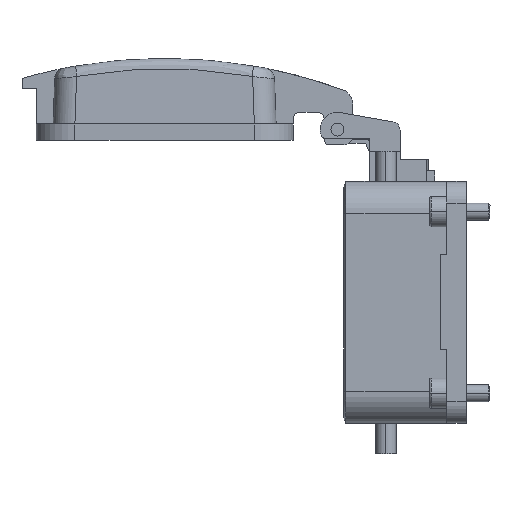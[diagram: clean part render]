
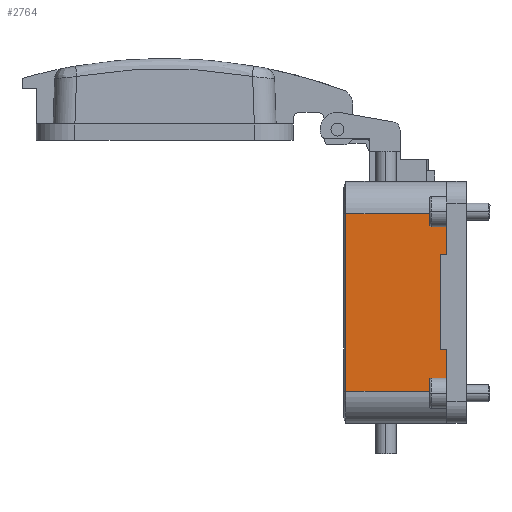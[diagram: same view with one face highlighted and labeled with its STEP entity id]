
A CAD part, left-side view. The second image highlights one B-rep face of the part: STEP entity #2764.
In plain terms, the highlighted planar face has unit normal (-1, 0, 0).
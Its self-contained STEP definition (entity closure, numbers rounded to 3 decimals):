
#1140 = DIRECTION ( 'NONE',  ( 0., 0., -1. ) ) ;
#1145 = CARTESIAN_POINT ( 'NONE',  ( -41., -9.8, -21.6 ) ) ;
#1691 = LINE ( 'NONE', #7345, #1697 ) ;
#1697 = VECTOR ( 'NONE', #7329, 1000. ) ;
#2409 = VERTEX_POINT ( 'NONE', #7543 ) ;
#2417 = VERTEX_POINT ( 'NONE', #7535 ) ;
#2436 = VERTEX_POINT ( 'NONE', #7516 ) ;
#2440 = VERTEX_POINT ( 'NONE', #7512 ) ;
#2446 = VERTEX_POINT ( 'NONE', #7506 ) ;
#2489 = VERTEX_POINT ( 'NONE', #7463 ) ;
#2493 = VERTEX_POINT ( 'NONE', #7459 ) ;
#2497 = VERTEX_POINT ( 'NONE', #7455 ) ;
#2545 = EDGE_CURVE ( 'NONE', #2493, #2497, #1691, .T. ) ;
#2764 = ADVANCED_FACE ( 'F11', ( #8720 ), #9892, .F. ) ;
#3891 = EDGE_LOOP ( 'NONE', ( #12140, #12139, #12138, #12137, #12136, #12135, #12134, #12133 ) ) ;
#4337 = EDGE_CURVE ( 'NONE', #2497, #2440, #12473, .T. ) ;
#4339 = EDGE_CURVE ( 'NONE', #2440, #2489, #12475, .T. ) ;
#4342 = EDGE_CURVE ( 'NONE', #2489, #2436, #12464, .T. ) ;
#4388 = EDGE_CURVE ( 'NONE', #2417, #2446, #15265, .T. ) ;
#4395 = EDGE_CURVE ( 'NONE', #2409, #2417, #15245, .T. ) ;
#4396 = EDGE_CURVE ( 'NONE', #2436, #2409, #15244, .T. ) ;
#5037 = DIRECTION ( 'NONE',  ( 0., -1., 0. ) ) ;
#5041 = CARTESIAN_POINT ( 'NONE',  ( -41., -11.4, 20.5 ) ) ;
#5058 = CARTESIAN_POINT ( 'NONE',  ( -41., -11.3, 29.4 ) ) ;
#5059 = DIRECTION ( 'NONE',  ( 0., 0., -1. ) ) ;
#5080 = DIRECTION ( 'NONE',  ( 0., 1., 0. ) ) ;
#5090 = CARTESIAN_POINT ( 'NONE',  ( -41., -11.4, 11. ) ) ;
#5260 = DIRECTION ( 'NONE',  ( 0., 0., 1. ) ) ;
#5261 = CARTESIAN_POINT ( 'NONE',  ( -41., 12.064, -21.6 ) ) ;
#5271 = CARTESIAN_POINT ( 'NONE',  ( -41., -11.4, -20.5 ) ) ;
#5272 = DIRECTION ( 'NONE',  ( 0., 0., -1. ) ) ;
#5273 = CARTESIAN_POINT ( 'NONE',  ( -41., -11.3, -21.6 ) ) ;
#5277 = DIRECTION ( 'NONE',  ( 0., 1., 0. ) ) ;
#7329 = DIRECTION ( 'NONE',  ( 0., -1., 0. ) ) ;
#7345 = CARTESIAN_POINT ( 'NONE',  ( -41., -11.3, -11. ) ) ;
#7455 = CARTESIAN_POINT ( 'NONE',  ( -41., -11.3, -11. ) ) ;
#7459 = CARTESIAN_POINT ( 'NONE',  ( -41., -9.8, -11. ) ) ;
#7463 = CARTESIAN_POINT ( 'NONE',  ( -41., 12.064, -20.5 ) ) ;
#7506 = CARTESIAN_POINT ( 'NONE',  ( -41., -9.8, 11. ) ) ;
#7512 = CARTESIAN_POINT ( 'NONE',  ( -41., -11.3, -20.5 ) ) ;
#7516 = CARTESIAN_POINT ( 'NONE',  ( -41., 12.064, 20.5 ) ) ;
#7535 = CARTESIAN_POINT ( 'NONE',  ( -41., -11.3, 11. ) ) ;
#7543 = CARTESIAN_POINT ( 'NONE',  ( -41., -11.3, 20.5 ) ) ;
#8153 = EDGE_CURVE ( 'NONE', #2446, #2493, #14951, .T. ) ;
#8720 = FACE_OUTER_BOUND ( 'NONE', #3891, .T. ) ;
#8992 = AXIS2_PLACEMENT_3D ( 'NONE', #9872, #9871, #9870 ) ;
#9870 = DIRECTION ( 'NONE',  ( 0., 0., -1. ) ) ;
#9871 = DIRECTION ( 'NONE',  ( 1., 0., 0. ) ) ;
#9872 = CARTESIAN_POINT ( 'NONE',  ( -41., -11.4, -21.6 ) ) ;
#9892 = PLANE ( 'NONE',  #8992 ) ;
#12133 = ORIENTED_EDGE ( 'NONE', *, *, #4388, .F. ) ;
#12134 = ORIENTED_EDGE ( 'NONE', *, *, #8153, .F. ) ;
#12135 = ORIENTED_EDGE ( 'NONE', *, *, #2545, .F. ) ;
#12136 = ORIENTED_EDGE ( 'NONE', *, *, #4337, .F. ) ;
#12137 = ORIENTED_EDGE ( 'NONE', *, *, #4339, .F. ) ;
#12138 = ORIENTED_EDGE ( 'NONE', *, *, #4342, .F. ) ;
#12139 = ORIENTED_EDGE ( 'NONE', *, *, #4396, .F. ) ;
#12140 = ORIENTED_EDGE ( 'NONE', *, *, #4395, .F. ) ;
#12461 = VECTOR ( 'NONE', #5260, 1000. ) ;
#12464 = LINE ( 'NONE', #5261, #12461 ) ;
#12467 = VECTOR ( 'NONE', #5277, 1000. ) ;
#12470 = VECTOR ( 'NONE', #5272, 1000. ) ;
#12473 = LINE ( 'NONE', #5273, #12470 ) ;
#12475 = LINE ( 'NONE', #5271, #12467 ) ;
#14942 = VECTOR ( 'NONE', #1140, 1000. ) ;
#14951 = LINE ( 'NONE', #1145, #14942 ) ;
#15241 = VECTOR ( 'NONE', #5037, 1000. ) ;
#15243 = VECTOR ( 'NONE', #5059, 1000. ) ;
#15244 = LINE ( 'NONE', #5041, #15241 ) ;
#15245 = LINE ( 'NONE', #5058, #15243 ) ;
#15255 = VECTOR ( 'NONE', #5080, 1000. ) ;
#15265 = LINE ( 'NONE', #5090, #15255 ) ;
